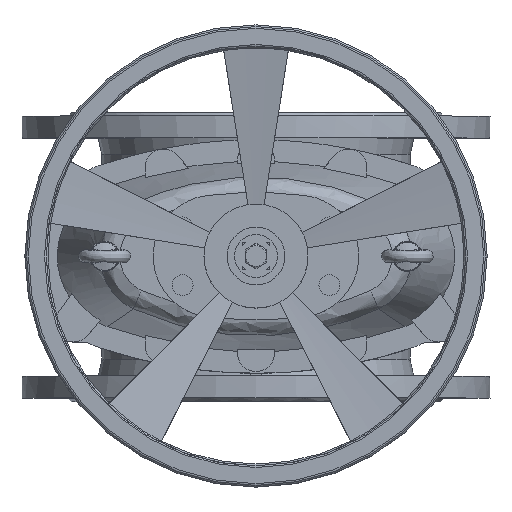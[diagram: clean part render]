
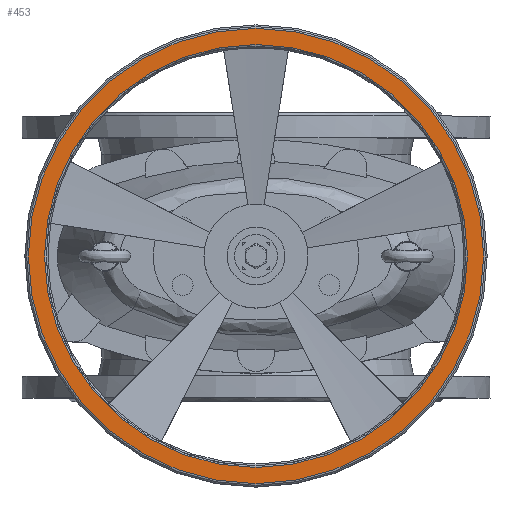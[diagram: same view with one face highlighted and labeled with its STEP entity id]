
A CAD part, top view. The second image highlights one B-rep face of the part: STEP entity #453.
In plain terms, the highlighted planar face has unit normal (0, 0, 1).
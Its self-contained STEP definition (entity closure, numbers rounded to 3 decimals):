
#453=ADVANCED_FACE('',(#3374,#3376),#3378,.T.);
#3374=FACE_BOUND('',#3375,.T.);
#3375=EDGE_LOOP('',(#22277));
#3376=FACE_BOUND('',#3377,.T.);
#3377=EDGE_LOOP('',(#22278));
#3378=PLANE('',#3379);
#3379=AXIS2_PLACEMENT_3D('',#3380,#3381,#3382);
#3380=CARTESIAN_POINT('',(0.,0.,600.5));
#3381=DIRECTION('',(0.,0.,1.));
#3382=DIRECTION('',(0.,-1.,0.));
#22277=ORIENTED_EDGE('',*,*,#24035,.T.);
#22278=ORIENTED_EDGE('',*,*,#23998,.F.);
#23998=EDGE_CURVE('',#24976,#24976,#24977,.T.);
#24035=EDGE_CURVE('',#25031,#25031,#25032,.T.);
#24976=VERTEX_POINT('',#27010);
#24977=CIRCLE('',#27011,183.);
#25031=VERTEX_POINT('',#27152);
#25032=CIRCLE('',#27153,197.);
#27010=CARTESIAN_POINT('',(0.,-183.,600.5));
#27011=AXIS2_PLACEMENT_3D('',#27012,#27013,#27014);
#27012=CARTESIAN_POINT('',(0.,0.,600.5));
#27013=DIRECTION('',(0.,0.,1.));
#27014=DIRECTION('',(0.,-1.,0.));
#27152=CARTESIAN_POINT('',(0.,-197.,600.5));
#27153=AXIS2_PLACEMENT_3D('',#27154,#27155,#27156);
#27154=CARTESIAN_POINT('',(0.,0.,600.5));
#27155=DIRECTION('',(0.,0.,1.));
#27156=DIRECTION('',(0.,-1.,0.));
